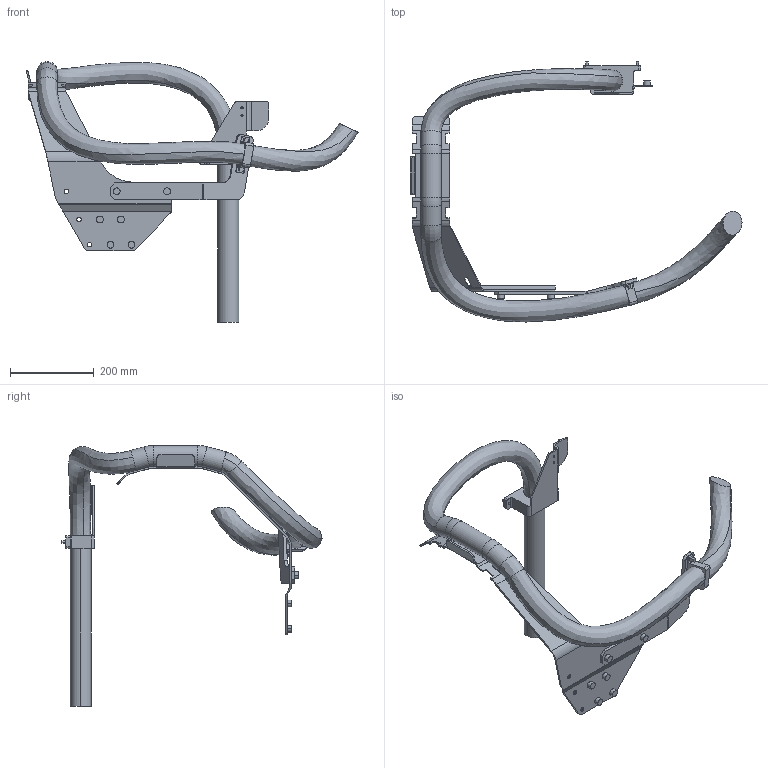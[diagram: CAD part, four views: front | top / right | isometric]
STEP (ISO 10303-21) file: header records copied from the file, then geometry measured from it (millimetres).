
FILE_DESCRIPTION (( 'STEP AP214' ), '1' );
FILE_NAME ('IRB6760-MH3_All_OC_00_LINK01_CABLE.step', '2025-09-30T13:11:50', ( '' ), ( '' ), 'SwSTEP 2.0', 'SolidWorks 2024', '' );
FILE_SCHEMA (( 'AUTOMOTIVE_DESIGN' ));
Length unit declared in the file: millimetre
Products named in the file (1): IRB6760-MH3_All_OC_00_LINK01_CABLE
Bounding box: 790.97 x 619.65 x 621.56 mm (x, y, z)
Volume: 5130760.7 mm3; surface area: 624259.7 mm2
Topology: 1 solids, 1 shells, 315 faces, 802 edges, 504 vertices
Faces by surface type: plane 166, cylinder 133, bspline 14, torus 2
Entity records: 14089 total; most frequent: CARTESIAN_POINT 6353, DIRECTION 1629, ORIENTED_EDGE 1604, EDGE_CURVE 802, AXIS2_PLACEMENT_3D 568, VERTEX_POINT 504, VECTOR 493, LINE 493
